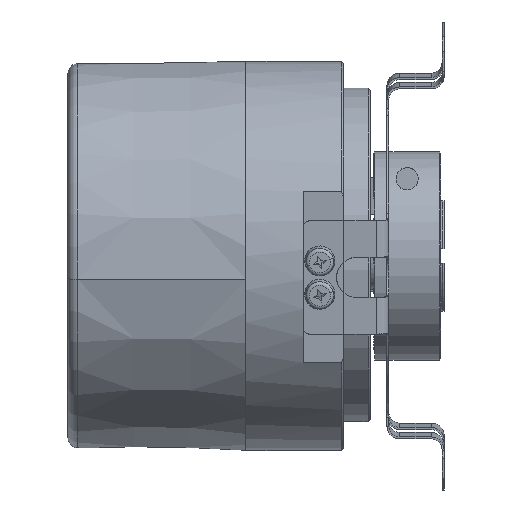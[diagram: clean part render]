
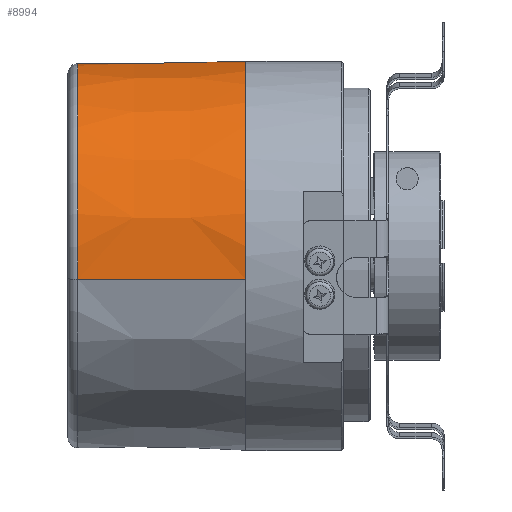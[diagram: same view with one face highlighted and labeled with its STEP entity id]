
A CAD part, front view. The second image highlights one B-rep face of the part: STEP entity #8994.
In plain terms, the highlighted conical face has half-angle 0.75 degrees and reference radius 29 mm.
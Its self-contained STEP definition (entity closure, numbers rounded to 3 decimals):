
#3231 = CARTESIAN_POINT ( 'NONE',  ( 7.5, 0., 0. ) ) ;
#3232 = AXIS2_PLACEMENT_3D ( 'NONE', #3231, #3300, #3299 ) ;
#3233 = CONICAL_SURFACE ( 'NONE', #3232, 29., 0.013 ) ;
#3241 = CARTESIAN_POINT ( 'NONE',  ( 7.5, -28.784, -3.534 ) ) ;
#3295 = DIRECTION ( 'NONE',  ( 1., -0.013, -0.002 ) ) ;
#3296 = VECTOR ( 'NONE', #3295, 1000. ) ;
#3297 = CARTESIAN_POINT ( 'NONE',  ( 7.5, -28.784, -3.534 ) ) ;
#3298 = LINE ( 'NONE', #3297, #3296 ) ;
#3299 = DIRECTION ( 'NONE',  ( 0., -0.993, -0.122 ) ) ;
#3300 = DIRECTION ( 'NONE',  ( 1., 0., 0. ) ) ;
#3305 = CARTESIAN_POINT ( 'NONE',  ( -17.52, 21.923, 18.479 ) ) ;
#3306 = DIRECTION ( 'NONE',  ( 0., 0.993, 0.122 ) ) ;
#3307 = DIRECTION ( 'NONE',  ( 1., 0., 0. ) ) ;
#3308 = CARTESIAN_POINT ( 'NONE',  ( -17.52, 0., 0. ) ) ;
#3309 = AXIS2_PLACEMENT_3D ( 'NONE', #3308, #3307, #3306 ) ;
#3317 = CIRCLE ( 'NONE', #3309, 28.672 ) ;
#3335 = FACE_OUTER_BOUND ( 'NONE', #8995, .T. ) ;
#3336 = CARTESIAN_POINT ( 'NONE',  ( -17.52, -28.459, -3.494 ) ) ;
#3788 = DIRECTION ( 'NONE',  ( 0., 0.993, 0.122 ) ) ;
#3789 = DIRECTION ( 'NONE',  ( -1., 0., 0. ) ) ;
#3790 = CARTESIAN_POINT ( 'NONE',  ( 7.5, 0., 0. ) ) ;
#3791 = AXIS2_PLACEMENT_3D ( 'NONE', #3790, #3789, #3788 ) ;
#3792 = CIRCLE ( 'NONE', #3791, 29. ) ;
#3860 = CARTESIAN_POINT ( 'NONE',  ( -17.52, 21.923, 18.479 ) ) ;
#3861 = CARTESIAN_POINT ( 'NONE',  ( -14.179, 21.982, 18.477 ) ) ;
#3862 = CARTESIAN_POINT ( 'NONE',  ( 7.5, 22.36, 18.467 ) ) ;
#4059 = CARTESIAN_POINT ( 'NONE',  ( -10.838, 22.04, 18.476 ) ) ;
#4060 = CARTESIAN_POINT ( 'NONE',  ( -7.498, 22.099, 18.474 ) ) ;
#4061 = CARTESIAN_POINT ( 'NONE',  ( -3.498, 22.169, 18.472 ) ) ;
#4062 = CARTESIAN_POINT ( 'NONE',  ( 0.501, 22.238, 18.47 ) ) ;
#4063 = CARTESIAN_POINT ( 'NONE',  ( 4.5, 22.308, 18.469 ) ) ;
#4064 = CARTESIAN_POINT ( 'NONE',  ( 5.5, 22.325, 18.468 ) ) ;
#4065 = CARTESIAN_POINT ( 'NONE',  ( 6.5, 22.343, 18.468 ) ) ;
#4066 = CARTESIAN_POINT ( 'NONE',  ( 7.5, 22.36, 18.467 ) ) ;
#4070 = B_SPLINE_CURVE_WITH_KNOTS ( 'NONE', 3,
 ( #4066, #4065, #4064, #4063, #4062, #4061, #4060, #4059, #3861, #3860 ),
 .UNSPECIFIED., .F., .F.,
 ( 4, 3, 3, 4 ),
 ( 0., 0.003, 0.015, 0.025 ),
 .UNSPECIFIED. ) ;
#8992 = VERTEX_POINT ( 'NONE', #3336 ) ;
#8994 = ADVANCED_FACE ( 'NONE', ( #3335 ), #3233, .T. ) ;
#8995 = EDGE_LOOP ( 'NONE', ( #8996, #8997, #9144, #9133 ) ) ;
#8996 = ORIENTED_EDGE ( 'NONE', *, *, #9003, .T. ) ;
#8997 = ORIENTED_EDGE ( 'NONE', *, *, #8998, .T. ) ;
#8998 = EDGE_CURVE ( 'NONE', #8992, #8999, #3298, .T. ) ;
#8999 = VERTEX_POINT ( 'NONE', #3241 ) ;
#9003 = EDGE_CURVE ( 'NONE', #9004, #8992, #3317, .T. ) ;
#9004 = VERTEX_POINT ( 'NONE', #3305 ) ;
#9114 = EDGE_CURVE ( 'NONE', #8999, #9147, #3792, .T. ) ;
#9133 = ORIENTED_EDGE ( 'NONE', *, *, #9201, .T. ) ;
#9144 = ORIENTED_EDGE ( 'NONE', *, *, #9114, .T. ) ;
#9147 = VERTEX_POINT ( 'NONE', #3862 ) ;
#9201 = EDGE_CURVE ( 'NONE', #9147, #9004, #4070, .T. ) ;
